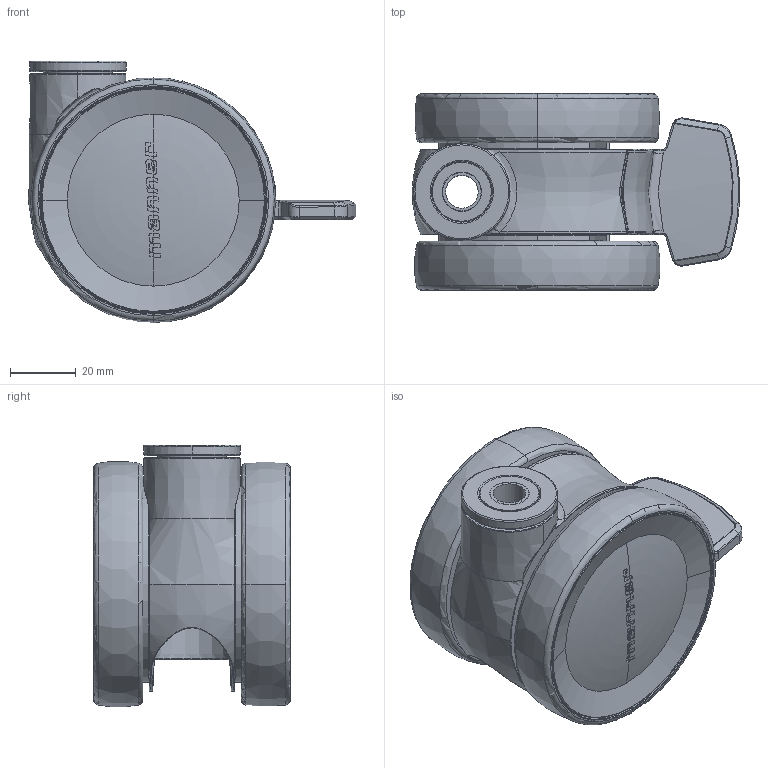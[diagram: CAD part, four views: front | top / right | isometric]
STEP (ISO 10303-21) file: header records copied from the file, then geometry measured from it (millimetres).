
FILE_DESCRIPTION (( 'STEP AP203' ), '1' );
FILE_NAME ('TWIST-J-75.STEP', '2021-12-03T07:02:21', ( '' ), ( '' ), 'SwSTEP 2.0', 'SolidWorks 2021', '' );
FILE_SCHEMA (( 'CONFIG_CONTROL_DESIGN' ));
Length unit declared in the file: millimetre
Products named in the file (1): TWIST-J-75
Bounding box: 99.9 x 60 x 79.84 mm (x, y, z)
Volume: 135282.1 mm3; surface area: 122048.7 mm2
Topology: 20 solids, 20 shells, 2905 faces, 8360 edges, 5364 vertices
Faces by surface type: cylinder 1016, plane 1003, torus 524, bspline 235, cone 108, sphere 19
Entity records: 123781 total; most frequent: CARTESIAN_POINT 50858, ORIENTED_EDGE 16682, DIRECTION 14015, EDGE_CURVE 8341, AXIS2_PLACEMENT_3D 5480, VERTEX_POINT 5363, LINE 3055, VECTOR 3055
